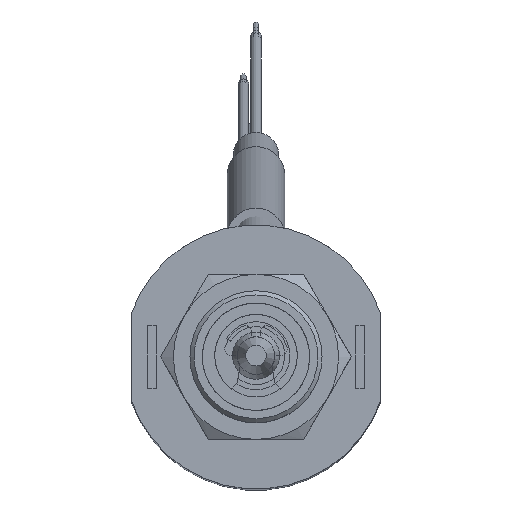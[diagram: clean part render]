
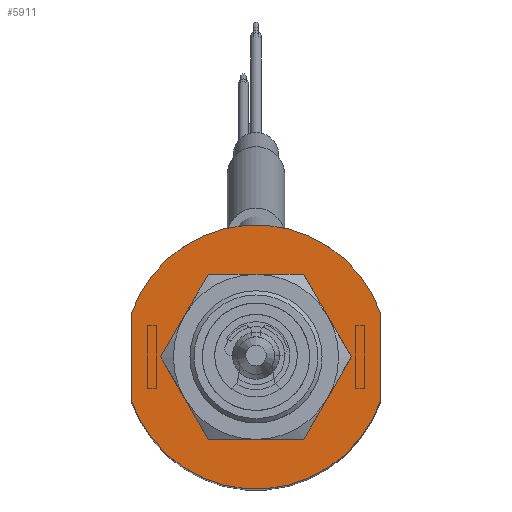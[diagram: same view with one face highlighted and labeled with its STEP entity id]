
A CAD part, top view. The second image highlights one B-rep face of the part: STEP entity #5911.
In plain terms, the highlighted planar face has unit normal (0, 0, 1) as drawn and (0, 0, -1) by its records, which use the part's own axes.
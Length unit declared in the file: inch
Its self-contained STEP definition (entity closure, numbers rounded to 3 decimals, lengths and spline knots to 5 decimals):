
#315=FACE_BOUND('',#919,.T.);
#392=PLANE('',#6528);
#564=FACE_OUTER_BOUND('',#918,.T.);
#918=EDGE_LOOP('',(#3938,#3939,#3940,#3941));
#919=EDGE_LOOP('',(#3942,#3943));
#1336=LINE('',#9103,#1694);
#1339=LINE('',#9110,#1697);
#1694=VECTOR('',#7348,0.3937);
#1697=VECTOR('',#7357,0.3937);
#2003=CIRCLE('',#6516,0.17717);
#2004=CIRCLE('',#6517,0.17717);
#2008=CIRCLE('',#6523,0.31496);
#2009=CIRCLE('',#6526,0.31496);
#2383=VERTEX_POINT('',#9079);
#2384=VERTEX_POINT('',#9080);
#2390=VERTEX_POINT('',#9096);
#2391=VERTEX_POINT('',#9098);
#2392=VERTEX_POINT('',#9102);
#2393=VERTEX_POINT('',#9106);
#2985=EDGE_CURVE('',#2383,#2384,#2003,.T.);
#2986=EDGE_CURVE('',#2384,#2383,#2004,.T.);
#2994=EDGE_CURVE('',#2391,#2390,#2008,.T.);
#2996=EDGE_CURVE('',#2392,#2391,#1336,.T.);
#2998=EDGE_CURVE('',#2393,#2392,#2009,.T.);
#3000=EDGE_CURVE('',#2390,#2393,#1339,.T.);
#3938=ORIENTED_EDGE('',*,*,#3000,.T.);
#3939=ORIENTED_EDGE('',*,*,#2998,.T.);
#3940=ORIENTED_EDGE('',*,*,#2996,.T.);
#3941=ORIENTED_EDGE('',*,*,#2994,.T.);
#3942=ORIENTED_EDGE('',*,*,#2985,.T.);
#3943=ORIENTED_EDGE('',*,*,#2986,.T.);
#5911=ADVANCED_FACE('',(#564,#315),#392,.T.);
#6516=AXIS2_PLACEMENT_3D('',#9081,#7325,#7326);
#6517=AXIS2_PLACEMENT_3D('',#9082,#7327,#7328);
#6523=AXIS2_PLACEMENT_3D('',#9099,#7343,#7344);
#6526=AXIS2_PLACEMENT_3D('',#9107,#7352,#7353);
#6528=AXIS2_PLACEMENT_3D('',#9111,#7358,#7359);
#7325=DIRECTION('center_axis',(0.,0.,
1.));
#7326=DIRECTION('ref_axis',(-1.,0.,0.));
#7327=DIRECTION('center_axis',(0.,0.,
1.));
#7328=DIRECTION('ref_axis',(-1.,0.,0.));
#7343=DIRECTION('center_axis',(0.,0.,
-1.));
#7344=DIRECTION('ref_axis',(0.944,-0.331,0.));
#7348=DIRECTION('',(0.,-1.,0.));
#7352=DIRECTION('center_axis',(0.,0.,
-1.));
#7353=DIRECTION('ref_axis',(-0.944,0.331,0.));
#7357=DIRECTION('',(0.,1.,0.));
#7358=DIRECTION('center_axis',(0.,0.,
-1.));
#7359=DIRECTION('ref_axis',(-1.,0.,0.));
#9079=CARTESIAN_POINT('',(-0.17717,0.,-1.82579));
#9080=CARTESIAN_POINT('',(0.17717,0.,-1.82579));
#9081=CARTESIAN_POINT('Origin',(0.,0.,
-1.82579));
#9082=CARTESIAN_POINT('Origin',(0.,0.,
-1.82579));
#9096=CARTESIAN_POINT('',(-0.29724,-0.10414,-1.82579));
#9098=CARTESIAN_POINT('',(0.29724,-0.10414,-1.82579));
#9099=CARTESIAN_POINT('Origin',(0.,0.,
-1.82579));
#9102=CARTESIAN_POINT('',(0.29724,0.10414,-1.82579));
#9103=CARTESIAN_POINT('',(0.29724,0.10414,-1.82579));
#9106=CARTESIAN_POINT('',(-0.29724,0.10414,-1.82579));
#9107=CARTESIAN_POINT('Origin',(0.,0.,
-1.82579));
#9110=CARTESIAN_POINT('',(-0.29724,-0.10414,-1.82579));
#9111=CARTESIAN_POINT('Origin',(0.,0.,
-1.82579));
